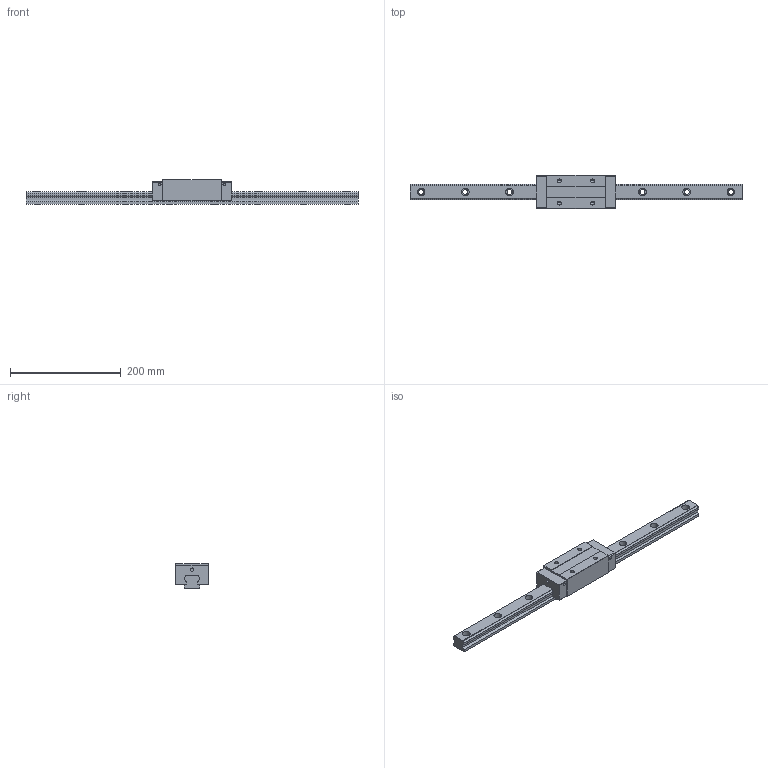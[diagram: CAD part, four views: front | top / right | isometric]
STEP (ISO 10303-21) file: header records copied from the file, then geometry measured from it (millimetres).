
FILE_DESCRIPTION (( 'STEP AP203' ), '1' );
FILE_NAME ('TRH30VE-WW.STEP', '2024-05-16T02:18:13', ( '' ), ( '' ), 'SwSTEP 2.0', 'SolidWorks 2022', '' );
FILE_SCHEMA (( 'CONFIG_CONTROL_DESIGN' ));
Length unit declared in the file: millimetre
Products named in the file (1): TRH30VE-WW
Bounding box: 600 x 60 x 45 mm (x, y, z)
Volume: 579006 mm3; surface area: 108169.3 mm2
Topology: 2 solids, 2 shells, 186 faces, 488 edges, 316 vertices
Faces by surface type: cylinder 88, plane 82, cone 16
Entity records: 5819 total; most frequent: DIRECTION 1038, CARTESIAN_POINT 983, ORIENTED_EDGE 960, EDGE_CURVE 480, AXIS2_PLACEMENT_3D 371, VERTEX_POINT 316, LINE 296, VECTOR 296
